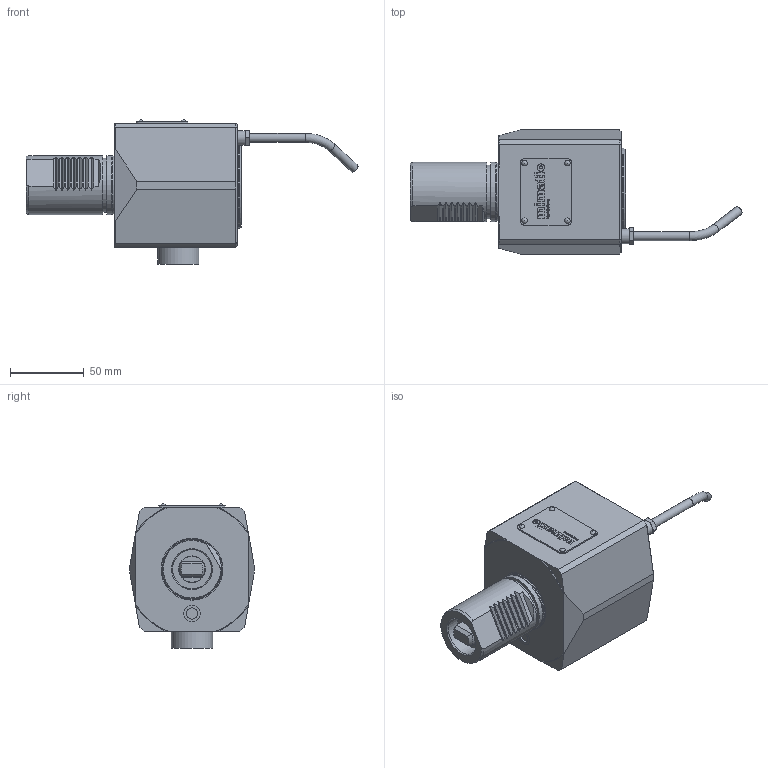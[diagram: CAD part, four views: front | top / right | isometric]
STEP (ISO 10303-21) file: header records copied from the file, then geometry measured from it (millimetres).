
FILE_DESCRIPTION(/* description */ (''),/* implementation_level */ '2;1');
FILE_NAME(/* name */ '201126-UNI',/* time_stamp */ '2023-05-02T08:12:51+02:00',/* author */ (''),/* organization */ (''),/* preprocessor_version */ 'ST-DEVELOPER v16.5',/* originating_system */ 'HiCAD 2017 2201.0 Build 268',/* authorisation */ '');
FILE_SCHEMA (('AUTOMOTIVE_DESIGN { 1 0 10303 214 1 1 1 1 }'));
Length unit declared in the file: millimetre
Products named in the file (2): Root; Teil
Assembly tree (1 placements, depth 2):
  Root
    Teil
Bounding box: 224.67 x 84 x 97.8 mm (x, y, z)
Volume: 610441.2 mm3; surface area: 58485.2 mm2
Topology: 8 solids, 13 shells, 577 faces, 1470 edges, 964 vertices
Faces by surface type: plane 323, cylinder 111, cone 63, bspline 40, torus 36, sphere 4
Full cylindrical faces by diameter (mm): 2 x4, 2.2 x4, 4 x2, 6 x2, 7.65 x1, 8.1 x1, 10 x1, 11.01 x1, 11.1 x1, 15 x1, 15.2 x1, 18 x1, 26.5 x1, 28 x1, 31.6 x1, 36.5 x1, 39.6 x1, 40 x3, 59 x1
Entity records: 33909 total; most frequent: CARTESIAN_POINT 6753, PRESENTATION_STYLE_ASSIGNMENT 2781, DRAUGHTING_PRE_DEFINED_CURVE_FONT 2780, CURVE_STYLE 2780, OVER_RIDING_STYLED_ITEM 2780, COLOUR_RGB 2780, ORIENTED_EDGE 2780, DIRECTION 2740
